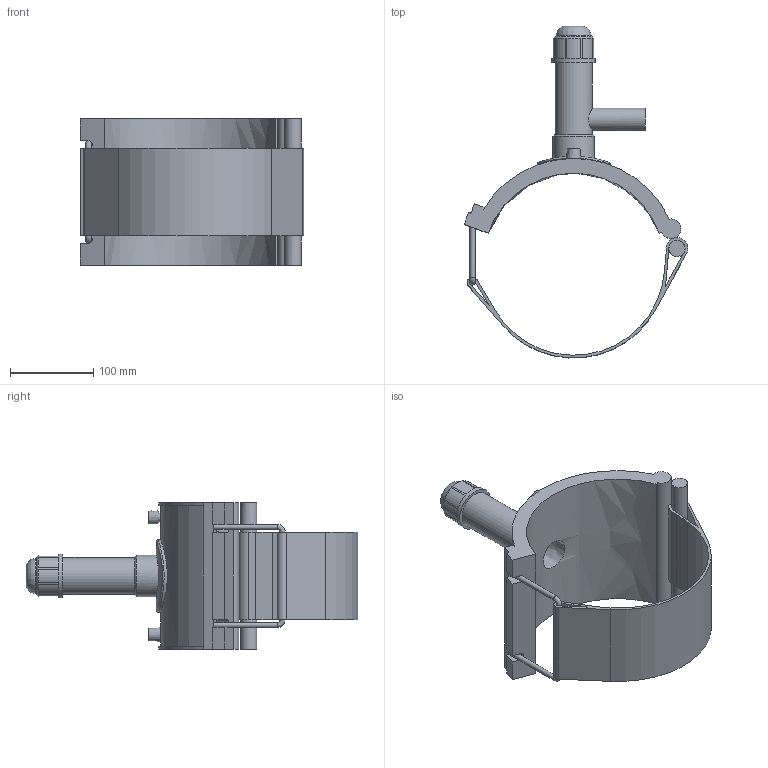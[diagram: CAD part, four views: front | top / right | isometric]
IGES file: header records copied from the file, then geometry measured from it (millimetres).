
Global section: file name: 5963BB03080007.ipt; native system: Autodesk Inventor 2019; preprocessor: unknown; author: KIM; date: 20210830.101431; units: millimetre
Bounding box: 268.63 x 398.85 x 176.02 mm (x, y, z)
Volume: 1300125 mm3; surface area: 300749.3 mm2
Topology: 2 solids, 2 shells, 122 faces, 304 edges, 195 vertices
Faces by surface type: plane 69, cylinder 29, revolution 12, cone 11, bspline 1
Full cylindrical faces by diameter (mm): 4 x2, 6.124 x2, 19.347 x1, 26.6 x1, 41.99 x1, 44.615 x1, 49.864 x1, 52.488 x1, 87.48 x1
